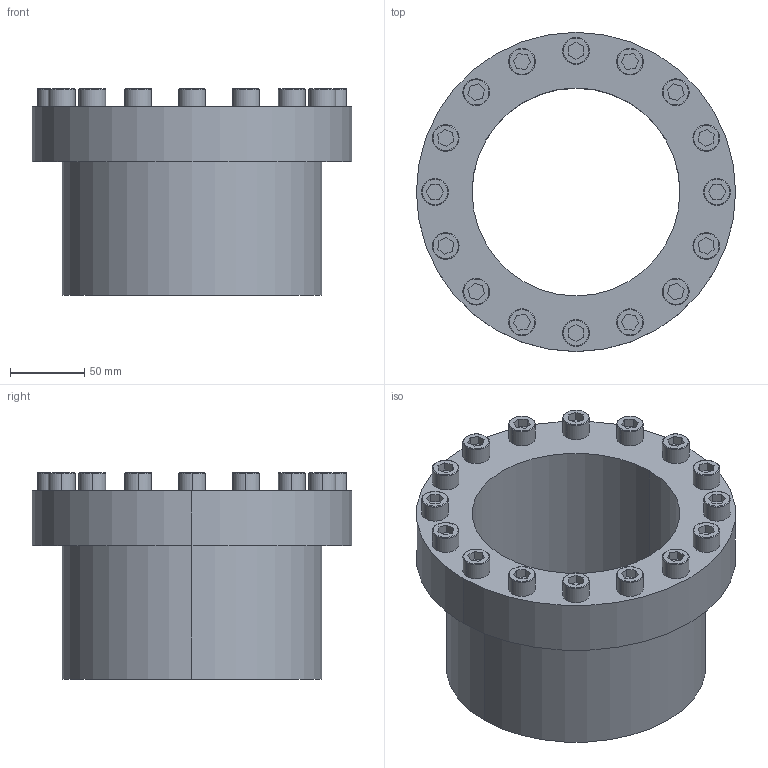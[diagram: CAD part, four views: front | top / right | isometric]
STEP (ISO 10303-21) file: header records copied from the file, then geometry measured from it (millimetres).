
FILE_DESCRIPTION (( 'STEP AP203' ), '1' );
FILE_NAME ('PL-C 140-175.STEP', '2021-10-22T08:47:53', ( '' ), ( '' ), 'SwSTEP 2.0', 'SolidWorks 2018', '' );
FILE_SCHEMA (( 'CONFIG_CONTROL_DESIGN' ));
Length unit declared in the file: millimetre
Products named in the file (1): PL-C 140-175
Bounding box: 215 x 215 x 139 mm (x, y, z)
Volume: 1588577.8 mm3; surface area: 186081.8 mm2
Topology: 1 solids, 1 shells, 201 faces, 466 edges, 300 vertices
Faces by surface type: plane 131, cylinder 38, torus 32
Entity records: 5765 total; most frequent: DIRECTION 1010, CARTESIAN_POINT 968, ORIENTED_EDGE 932, EDGE_CURVE 466, AXIS2_PLACEMENT_3D 342, LINE 326, VECTOR 326, VERTEX_POINT 300
